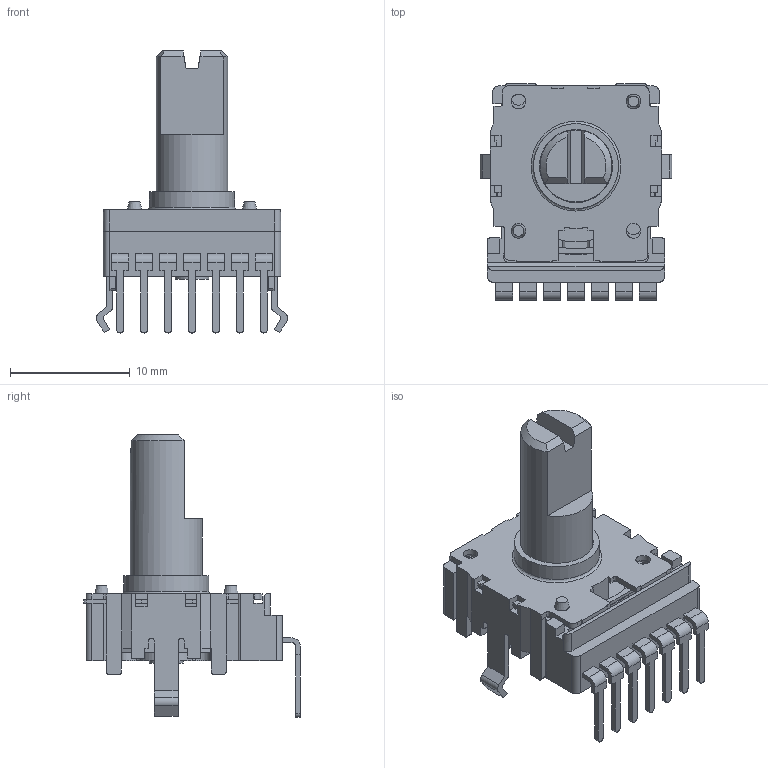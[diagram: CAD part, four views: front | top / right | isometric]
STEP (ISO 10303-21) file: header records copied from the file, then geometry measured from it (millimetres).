
FILE_DESCRIPTION((''),'2;1');
FILE_NAME('\\Forward-ks-ad\開發專區\高雄廠設計課\設計機種開發作業\量產機種專案\絕緣軸\RK14K\RK14K-3D圖\K143F20Z\K143F20Z.stp','2019-04-26T17:35:57',('kak13012'),(''),'Autodesk Inventor 2010','Autodesk Inventor 2010','');
FILE_SCHEMA(('AUTOMOTIVE_DESIGN { 1 0 10303 214 1 1 1 1 }'));
Length unit declared in the file: millimetre
Products named in the file (1): K143F20Z
Bounding box: 15.99 x 18.1 x 23.55 mm (x, y, z)
Volume: 1150.7 mm3; surface area: 2249.3 mm2
Topology: 1 solids, 2 shells, 572 faces, 1629 edges, 1046 vertices
Faces by surface type: plane 365, cylinder 134, bspline 65, cone 6, torus 2
Full cylindrical faces by diameter (mm): 1.2 x6, 1.23 x8, 2.81 x2, 3 x1, 6 x1, 6.1 x1, 6.11 x1, 7.1 x1, 7.2 x1
Entity records: 19848 total; most frequent: CARTESIAN_POINT 4998, ORIENTED_EDGE 3192, DIRECTION 2939, EDGE_CURVE 1596, VECTOR 1225, LINE 1225, VERTEX_POINT 1041, AXIS2_PLACEMENT_3D 857
